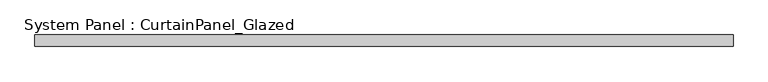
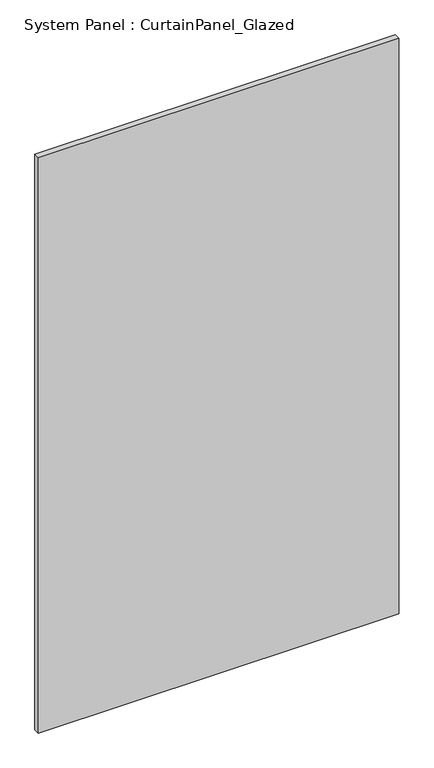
"""IFC4 building model written with IfcOpenShell, lengths in millimetres: plate geometry, System Panel : CurtainPanel_Glazed."""

from ifc_helpers import new_model, si_unit, origin, origin_with_axes, place, context, project, spatial, polyline, outline, extrude, source, transform, mapped, element, save


def system_panel_curtainpanel_glazed_c680861d(model_context):
    return source(origin(), model_context, "Body", "SweptSolid", [
        extrude(outline(polyline([(755.5555557, -12.5), (-755.5555557, -12.5), (-755.5555557, 12.5), (755.5555557, 12.5), (755.5555557, -12.5)])), origin_with_axes(), (0.0, 0.0, 1.0), 2550.0),
    ])


if __name__ == "__main__":
    model = new_model("IFC4")
    model_context = context("Model", 3, world=origin())
    ifc_project = project(units=[si_unit("LENGTHUNIT", "METRE", prefix="MILLI")], contexts=[model_context])
    site = spatial("IfcSite", under=ifc_project)
    building = spatial("IfcBuilding", under=site)
    placement = place(None, origin())
    system_panel_curtainpanel_glazed_shape = system_panel_curtainpanel_glazed_c680861d(model_context)
    element("IfcPlate", 1, ObjectType="System Panel : CurtainPanel_Glazed", at=placement, inside=building, context=model_context, shape_type="MappedRepresentation", body=[
        mapped(system_panel_curtainpanel_glazed_shape, transform((0.0, 0.0, 0.0), x_axis=(1.0, 0.0, 0.0), y_axis=(0.0, 1.0, 0.0), z_axis=(0.0, 0.0, 1.0))),
    ])
    save(model, "model.ifc")
